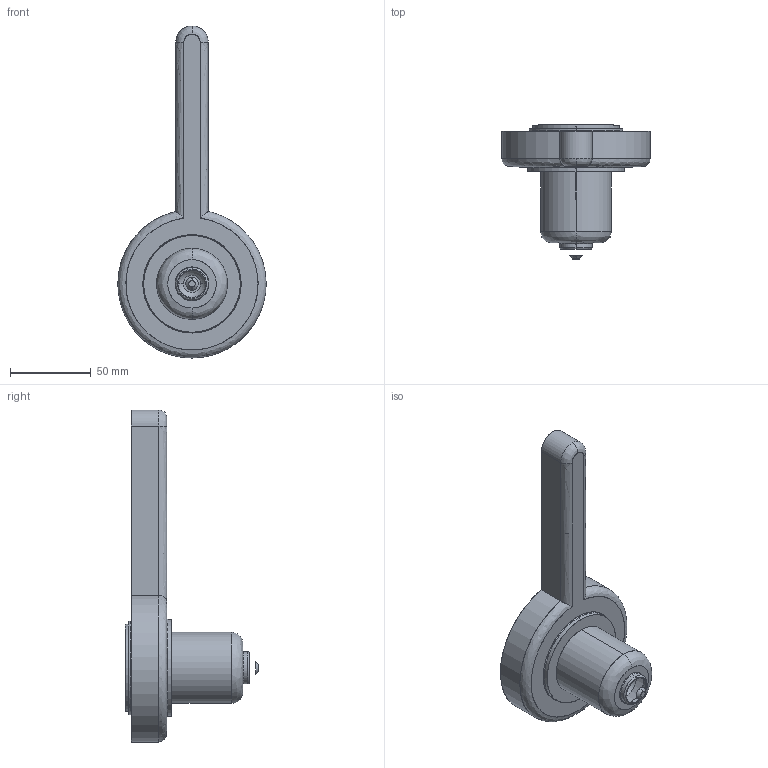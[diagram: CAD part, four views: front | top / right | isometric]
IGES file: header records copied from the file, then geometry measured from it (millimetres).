
Start section: SolidWorks IGES file using analytic representation for surfaces
Global section: file name: C:\Documents and Settings\ws-20\Desktop\TEM\Sede UGEP6002-S-A C-54 L-81 Ød-4.0.IGS; native system: SolidWorks 2012; preprocessor: SolidWorks 2012; author: ws-20; date: 120427.103131; units: millimetre
Bounding box: 91.98 x 83.14 x 206 mm (x, y, z)
Surface area: 35071.4 mm2 (no closed solid volume)
Topology: 0 solids, 0 shells, 44 faces, 984 edges, 984 vertices
Faces by surface type: revolution 27, bspline 17
